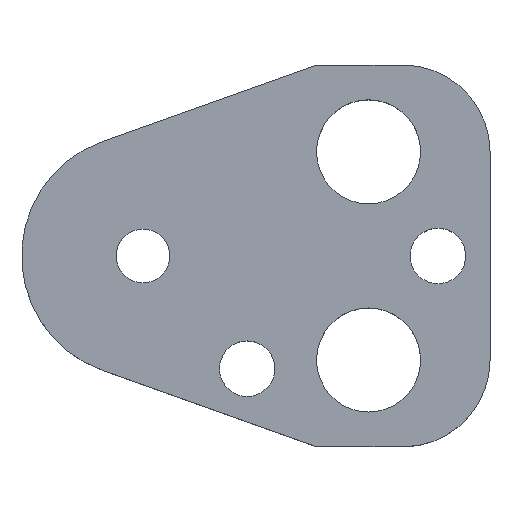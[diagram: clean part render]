
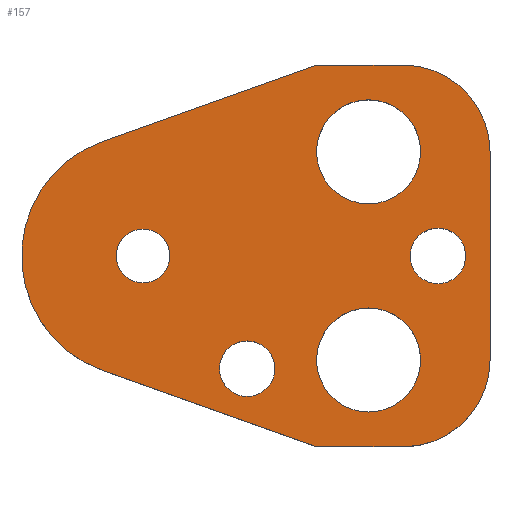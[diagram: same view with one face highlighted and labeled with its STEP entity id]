
A CAD part, top view. The second image highlights one B-rep face of the part: STEP entity #157.
In plain terms, the highlighted planar face has unit normal (0, 0, 1).
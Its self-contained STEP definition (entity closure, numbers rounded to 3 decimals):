
#103=FACE_BOUND('',#207,.T.);
#104=FACE_BOUND('',#208,.T.);
#105=FACE_BOUND('',#209,.T.);
#106=FACE_BOUND('',#210,.T.);
#107=FACE_BOUND('',#211,.T.);
#108=FACE_BOUND('',#212,.T.);
#122=CIRCLE('',#480,10.);
#124=CIRCLE('',#484,10.);
#127=CIRCLE('',#490,14.);
#138=CIRCLE('',#503,3.2);
#139=CIRCLE('',#504,3.2);
#140=CIRCLE('',#505,6.);
#141=CIRCLE('',#506,6.);
#142=CIRCLE('',#507,6.);
#143=CIRCLE('',#508,6.);
#144=CIRCLE('',#509,3.2);
#145=CIRCLE('',#510,3.2);
#146=CIRCLE('',#511,3.1);
#147=CIRCLE('',#512,3.1);
#157=ADVANCED_FACE('',(#103,#104,#105,#106,#107,#108),#174,.T.);
#174=PLANE('',#513);
#207=EDGE_LOOP('',(#273,#274,#275,#276,#277,#278,#279,#280));
#208=EDGE_LOOP('',(#281,#282));
#209=EDGE_LOOP('',(#283,#284));
#210=EDGE_LOOP('',(#285,#286));
#211=EDGE_LOOP('',(#287,#288));
#212=EDGE_LOOP('',(#289,#290));
#273=ORIENTED_EDGE('',*,*,#368,.T.);
#274=ORIENTED_EDGE('',*,*,#372,.T.);
#275=ORIENTED_EDGE('',*,*,#375,.T.);
#276=ORIENTED_EDGE('',*,*,#378,.T.);
#277=ORIENTED_EDGE('',*,*,#381,.T.);
#278=ORIENTED_EDGE('',*,*,#384,.T.);
#279=ORIENTED_EDGE('',*,*,#387,.T.);
#280=ORIENTED_EDGE('',*,*,#390,.T.);
#281=ORIENTED_EDGE('',*,*,#401,.T.);
#282=ORIENTED_EDGE('',*,*,#402,.T.);
#283=ORIENTED_EDGE('',*,*,#403,.T.);
#284=ORIENTED_EDGE('',*,*,#404,.T.);
#285=ORIENTED_EDGE('',*,*,#405,.T.);
#286=ORIENTED_EDGE('',*,*,#406,.T.);
#287=ORIENTED_EDGE('',*,*,#407,.T.);
#288=ORIENTED_EDGE('',*,*,#408,.T.);
#289=ORIENTED_EDGE('',*,*,#409,.T.);
#290=ORIENTED_EDGE('',*,*,#410,.T.);
#332=VERTEX_POINT('',#649);
#333=VERTEX_POINT('',#651);
#336=VERTEX_POINT('',#658);
#338=VERTEX_POINT('',#664);
#340=VERTEX_POINT('',#670);
#342=VERTEX_POINT('',#676);
#344=VERTEX_POINT('',#682);
#346=VERTEX_POINT('',#688);
#357=VERTEX_POINT('',#717);
#358=VERTEX_POINT('',#718);
#359=VERTEX_POINT('',#721);
#360=VERTEX_POINT('',#722);
#361=VERTEX_POINT('',#725);
#362=VERTEX_POINT('',#726);
#363=VERTEX_POINT('',#729);
#364=VERTEX_POINT('',#730);
#365=VERTEX_POINT('',#733);
#366=VERTEX_POINT('',#734);
#368=EDGE_CURVE('',#333,#332,#422,.T.);
#372=EDGE_CURVE('',#332,#336,#426,.T.);
#375=EDGE_CURVE('',#336,#338,#122,.T.);
#378=EDGE_CURVE('',#338,#340,#430,.T.);
#381=EDGE_CURVE('',#340,#342,#124,.T.);
#384=EDGE_CURVE('',#342,#344,#434,.T.);
#387=EDGE_CURVE('',#344,#346,#437,.T.);
#390=EDGE_CURVE('',#346,#333,#127,.T.);
#401=EDGE_CURVE('',#357,#358,#138,.T.);
#402=EDGE_CURVE('',#358,#357,#139,.T.);
#403=EDGE_CURVE('',#359,#360,#140,.T.);
#404=EDGE_CURVE('',#360,#359,#141,.T.);
#405=EDGE_CURVE('',#361,#362,#142,.T.);
#406=EDGE_CURVE('',#362,#361,#143,.T.);
#407=EDGE_CURVE('',#363,#364,#144,.T.);
#408=EDGE_CURVE('',#364,#363,#145,.T.);
#409=EDGE_CURVE('',#365,#366,#146,.T.);
#410=EDGE_CURVE('',#366,#365,#147,.T.);
#422=LINE('',#650,#450);
#426=LINE('',#659,#454);
#430=LINE('',#671,#458);
#434=LINE('',#683,#462);
#437=LINE('',#689,#465);
#450=VECTOR('',#527,1.);
#454=VECTOR('',#533,1.);
#458=VECTOR('',#545,1.);
#462=VECTOR('',#557,1.);
#465=VECTOR('',#562,1.);
#480=AXIS2_PLACEMENT_3D('',#665,#538,#539);
#484=AXIS2_PLACEMENT_3D('',#677,#550,#551);
#490=AXIS2_PLACEMENT_3D('',#693,#568,#569);
#503=AXIS2_PLACEMENT_3D('',#716,#594,#595);
#504=AXIS2_PLACEMENT_3D('',#719,#596,#597);
#505=AXIS2_PLACEMENT_3D('',#720,#598,#599);
#506=AXIS2_PLACEMENT_3D('',#723,#600,#601);
#507=AXIS2_PLACEMENT_3D('',#724,#602,#603);
#508=AXIS2_PLACEMENT_3D('',#727,#604,#605);
#509=AXIS2_PLACEMENT_3D('',#728,#606,#607);
#510=AXIS2_PLACEMENT_3D('',#731,#608,#609);
#511=AXIS2_PLACEMENT_3D('',#732,#610,#611);
#512=AXIS2_PLACEMENT_3D('',#735,#612,#613);
#513=AXIS2_PLACEMENT_3D('',#736,#614,#615);
#527=DIRECTION('',(0.942,-0.336,0.));
#533=DIRECTION('',(1.,0.,0.));
#538=DIRECTION('',(0.,0.,1.));
#539=DIRECTION('',(-0.707,0.707,0.));
#545=DIRECTION('',(0.,1.,0.));
#550=DIRECTION('',(0.,0.,1.));
#551=DIRECTION('',(-0.707,-0.707,0.));
#557=DIRECTION('',(-1.,0.,0.));
#562=DIRECTION('',(-0.942,-0.336,0.));
#568=DIRECTION('',(0.,0.,1.));
#569=DIRECTION('',(1.,0.,0.));
#594=DIRECTION('',(0.,0.,-1.));
#595=DIRECTION('',(-1.,0.,0.));
#596=DIRECTION('',(0.,0.,-1.));
#597=DIRECTION('',(1.,0.,0.));
#598=DIRECTION('',(0.,0.,-1.));
#599=DIRECTION('',(-1.,0.,0.));
#600=DIRECTION('',(0.,0.,-1.));
#601=DIRECTION('',(1.,0.,0.));
#602=DIRECTION('',(0.,0.,-1.));
#603=DIRECTION('',(-1.,0.,0.));
#604=DIRECTION('',(0.,0.,-1.));
#605=DIRECTION('',(1.,0.,0.));
#606=DIRECTION('',(0.,0.,-1.));
#607=DIRECTION('',(-1.,0.,0.));
#608=DIRECTION('',(0.,0.,-1.));
#609=DIRECTION('',(1.,0.,0.));
#610=DIRECTION('',(0.,0.,-1.));
#611=DIRECTION('',(-1.,0.,0.));
#612=DIRECTION('',(0.,0.,-1.));
#613=DIRECTION('',(1.,0.,0.));
#614=DIRECTION('',(0.,0.,1.));
#615=DIRECTION('',(0.942,-0.336,0.));
#649=CARTESIAN_POINT('',(20.,-22.,9.));
#650=CARTESIAN_POINT('',(20.,-22.,9.));
#651=CARTESIAN_POINT('',(-4.704,-13.186,9.));
#658=CARTESIAN_POINT('',(30.,-22.,9.));
#659=CARTESIAN_POINT('',(20.,-22.,9.));
#664=CARTESIAN_POINT('',(40.,-12.,9.));
#665=CARTESIAN_POINT('',(30.,-12.,9.));
#670=CARTESIAN_POINT('',(40.,12.,9.));
#671=CARTESIAN_POINT('',(40.,12.,9.));
#676=CARTESIAN_POINT('',(30.,22.,9.));
#677=CARTESIAN_POINT('',(30.,12.,9.));
#682=CARTESIAN_POINT('',(20.,22.,9.));
#683=CARTESIAN_POINT('',(20.,22.,9.));
#688=CARTESIAN_POINT('',(-4.704,13.186,9.));
#689=CARTESIAN_POINT('',(20.,22.,9.));
#693=CARTESIAN_POINT('',(0.,0.,9.));
#716=CARTESIAN_POINT('',(34.,0.,9.));
#717=CARTESIAN_POINT('',(34.,3.2,9.));
#718=CARTESIAN_POINT('',(34.,-3.2,9.));
#719=CARTESIAN_POINT('',(34.,0.,9.));
#720=CARTESIAN_POINT('',(26.,12.,9.));
#721=CARTESIAN_POINT('',(26.,18.,9.));
#722=CARTESIAN_POINT('',(26.,6.,9.));
#723=CARTESIAN_POINT('',(26.,12.,9.));
#724=CARTESIAN_POINT('',(26.,-12.,9.));
#725=CARTESIAN_POINT('',(26.,-6.,9.));
#726=CARTESIAN_POINT('',(26.,-18.,9.));
#727=CARTESIAN_POINT('',(26.,-12.,9.));
#728=CARTESIAN_POINT('',(12.,-13.,9.));
#729=CARTESIAN_POINT('',(12.,-9.8,9.));
#730=CARTESIAN_POINT('',(12.,-16.2,9.));
#731=CARTESIAN_POINT('',(12.,-13.,9.));
#732=CARTESIAN_POINT('',(0.,0.,9.));
#733=CARTESIAN_POINT('',(0.,3.1,9.));
#734=CARTESIAN_POINT('',(0.,-3.1,9.));
#735=CARTESIAN_POINT('',(0.,0.,9.));
#736=CARTESIAN_POINT('',(-4.704,-13.186,9.));
